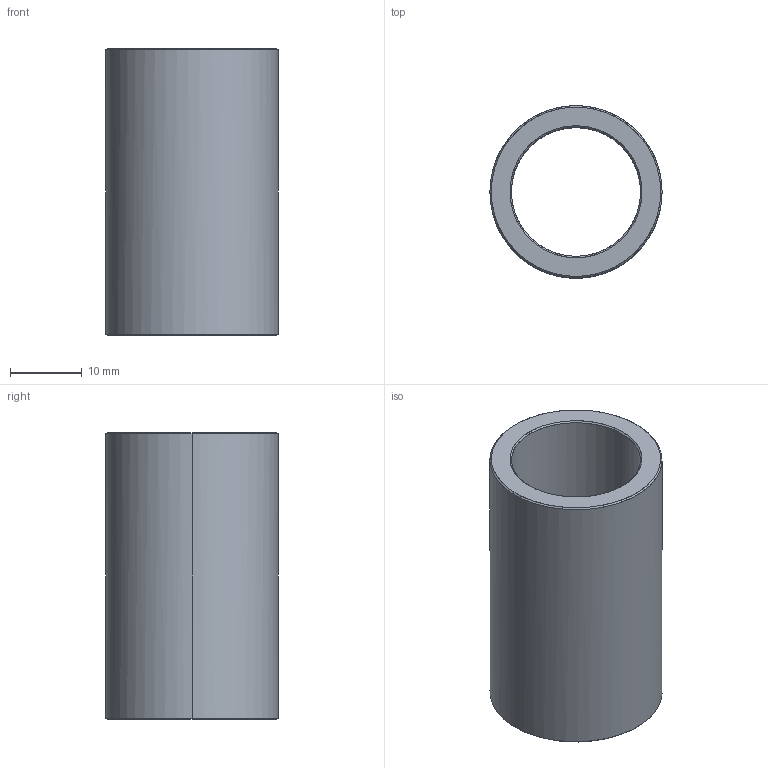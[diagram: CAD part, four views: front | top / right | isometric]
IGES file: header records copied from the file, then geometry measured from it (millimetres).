
Start section: Write IGES format                                    datakit 2008 (c)
Global section: file name: Unknown; native system: DATAKIT Converter; preprocessor: Unknown; author: Unknown; organization: Unknown; date: 950613.180003; units: millimetre
Bounding box: 24 x 23.98 x 40 mm (x, y, z)
Surface area: 5642.8 mm2 (no closed solid volume)
Topology: 0 solids, 0 shells, 14 faces, 56 edges, 56 vertices
Faces by surface type: revolution 12, bspline 2
